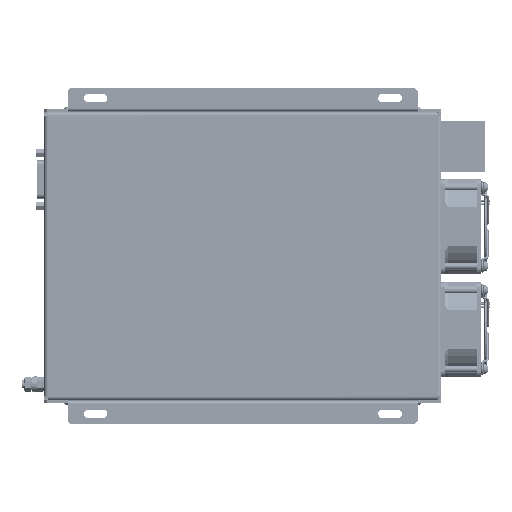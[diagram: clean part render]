
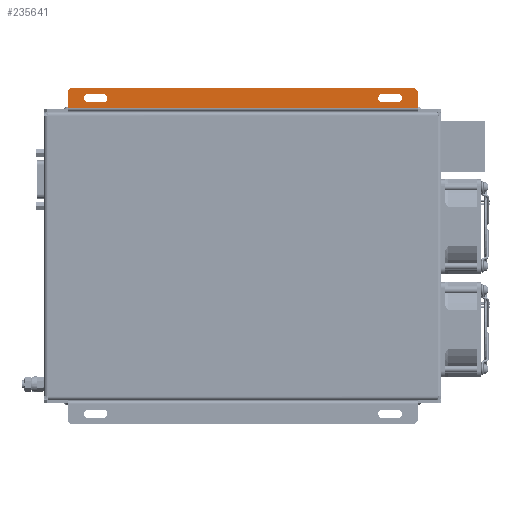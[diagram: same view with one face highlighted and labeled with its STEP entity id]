
A CAD part, front view. The second image highlights one B-rep face of the part: STEP entity #235641.
In plain terms, the highlighted planar face has unit normal (0, -1, 0).
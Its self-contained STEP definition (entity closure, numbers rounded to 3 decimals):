
#136 = FACE_BOUND ( 'NONE', #331944, .T. ) ;
#3382 = DIRECTION ( 'NONE',  ( 0., 0., -1. ) ) ;
#6265 = EDGE_CURVE ( 'NONE', #134584, #356221, #390096, .T. ) ;
#7140 = ORIENTED_EDGE ( 'NONE', *, *, #333436, .T. ) ;
#18641 = CIRCLE ( 'NONE', #370531, 2.5 ) ;
#24657 = CARTESIAN_POINT ( 'NONE',  ( -102.25, -68., -98. ) ) ;
#26019 = DIRECTION ( 'NONE',  ( 0., -1., 0. ) ) ;
#28642 = CARTESIAN_POINT ( 'NONE',  ( -102.25, -68., 98. ) ) ;
#29612 = CARTESIAN_POINT ( 'NONE',  ( -104.25, -68., -110.5 ) ) ;
#30663 = CIRCLE ( 'NONE', #60966, 2.5 ) ;
#32367 = DIRECTION ( 'NONE',  ( -0.707, 0., -0.707 ) ) ;
#34656 = LINE ( 'NONE', #295556, #202285 ) ;
#40821 = VERTEX_POINT ( 'NONE', #306721 ) ;
#41406 = LINE ( 'NONE', #441294, #321897 ) ;
#42342 = VERTEX_POINT ( 'NONE', #113902 ) ;
#58670 = DIRECTION ( 'NONE',  ( -1., 0., 0. ) ) ;
#59942 = DIRECTION ( 'NONE',  ( 1., 0., 0. ) ) ;
#60966 = AXIS2_PLACEMENT_3D ( 'NONE', #304268, #127960, #59942 ) ;
#74276 = AXIS2_PLACEMENT_3D ( 'NONE', #290603, #257470, #118834 ) ;
#74302 = VERTEX_POINT ( 'NONE', #366268 ) ;
#75438 = EDGE_CURVE ( 'NONE', #40821, #284776, #243571, .T. ) ;
#91843 = FACE_BOUND ( 'NONE', #208604, .T. ) ;
#91865 = CARTESIAN_POINT ( 'NONE',  ( -92.75, -68., -110.5 ) ) ;
#103925 = EDGE_LOOP ( 'NONE', ( #213302, #306983, #330306, #254367, #7140, #191074 ) ) ;
#108620 = ORIENTED_EDGE ( 'NONE', *, *, #6265, .F. ) ;
#113902 = CARTESIAN_POINT ( 'NONE',  ( -97.25, -68., 88. ) ) ;
#115231 = CARTESIAN_POINT ( 'NONE',  ( -93.55, -68., -110.5 ) ) ;
#118834 = DIRECTION ( 'NONE',  ( 1., 0., 0. ) ) ;
#119923 = AXIS2_PLACEMENT_3D ( 'NONE', #270400, #26019, #268910 ) ;
#127935 = ORIENTED_EDGE ( 'NONE', *, *, #433125, .F. ) ;
#127960 = DIRECTION ( 'NONE',  ( 0., -1., 0. ) ) ;
#134584 = VERTEX_POINT ( 'NONE', #193166 ) ;
#135417 = CARTESIAN_POINT ( 'NONE',  ( -104.25, -68., -110.5 ) ) ;
#140821 = CARTESIAN_POINT ( 'NONE',  ( -92.75, -68., -110.5 ) ) ;
#142203 = CARTESIAN_POINT ( 'NONE',  ( -106.25, -68., -110.5 ) ) ;
#147725 = EDGE_CURVE ( 'NONE', #301023, #74302, #18641, .T. ) ;
#164148 = CARTESIAN_POINT ( 'NONE',  ( -99.75, -68., -88. ) ) ;
#172512 = VECTOR ( 'NONE', #434403, 1000. ) ;
#174043 = ORIENTED_EDGE ( 'NONE', *, *, #392438, .F. ) ;
#177019 = ORIENTED_EDGE ( 'NONE', *, *, #372039, .F. ) ;
#180951 = CARTESIAN_POINT ( 'NONE',  ( -97.25, -68., -98. ) ) ;
#191074 = ORIENTED_EDGE ( 'NONE', *, *, #419631, .T. ) ;
#193166 = CARTESIAN_POINT ( 'NONE',  ( -102.25, -68., -98. ) ) ;
#197389 = DIRECTION ( 'NONE',  ( 0., -1., 0. ) ) ;
#202285 = VECTOR ( 'NONE', #360615, 1000. ) ;
#208604 = EDGE_LOOP ( 'NONE', ( #177019, #301359, #174043, #268903 ) ) ;
#213302 = ORIENTED_EDGE ( 'NONE', *, *, #320799, .T. ) ;
#216508 = LINE ( 'NONE', #241479, #297383 ) ;
#227098 = EDGE_CURVE ( 'NONE', #233327, #361591, #342947, .T. ) ;
#233327 = VERTEX_POINT ( 'NONE', #363985 ) ;
#234230 = DIRECTION ( 'NONE',  ( 0., 0., -1. ) ) ;
#235641 = ADVANCED_FACE ( 'NONE', ( #91843, #136, #339980 ), #347422, .F. ) ;
#236634 = VECTOR ( 'NONE', #58670, 1000. ) ;
#237217 = CARTESIAN_POINT ( 'NONE',  ( -93.55, -68., -110.5 ) ) ;
#241479 = CARTESIAN_POINT ( 'NONE',  ( -97.25, -68., -98. ) ) ;
#242727 = LINE ( 'NONE', #24657, #415461 ) ;
#243571 = LINE ( 'NONE', #237217, #416292 ) ;
#253099 = EDGE_CURVE ( 'NONE', #74302, #134584, #242727, .T. ) ;
#254289 = EDGE_CURVE ( 'NONE', #403640, #42342, #30663, .T. ) ;
#254367 = ORIENTED_EDGE ( 'NONE', *, *, #75438, .F. ) ;
#257470 = DIRECTION ( 'NONE',  ( 0., -1., 0. ) ) ;
#259053 = CARTESIAN_POINT ( 'NONE',  ( -97.25, -68., -88. ) ) ;
#268903 = ORIENTED_EDGE ( 'NONE', *, *, #254289, .F. ) ;
#268910 = DIRECTION ( 'NONE',  ( 1., 0., 0. ) ) ;
#269292 = EDGE_CURVE ( 'NONE', #361591, #284776, #443111, .T. ) ;
#270400 = CARTESIAN_POINT ( 'NONE',  ( -99.75, -68., -98. ) ) ;
#276524 = DIRECTION ( 'NONE',  ( -1., 0., 0. ) ) ;
#284776 = VERTEX_POINT ( 'NONE', #115231 ) ;
#290603 = CARTESIAN_POINT ( 'NONE',  ( -99.75, -68., 98. ) ) ;
#295556 = CARTESIAN_POINT ( 'NONE',  ( -102.25, -68., 98. ) ) ;
#297383 = VECTOR ( 'NONE', #372868, 1000. ) ;
#300651 = DIRECTION ( 'NONE',  ( 0., 0., -1. ) ) ;
#301023 = VERTEX_POINT ( 'NONE', #259053 ) ;
#301359 = ORIENTED_EDGE ( 'NONE', *, *, #318874, .F. ) ;
#304268 = CARTESIAN_POINT ( 'NONE',  ( -99.75, -68., 88. ) ) ;
#306721 = CARTESIAN_POINT ( 'NONE',  ( -93.55, -68., 110.5 ) ) ;
#306983 = ORIENTED_EDGE ( 'NONE', *, *, #227098, .T. ) ;
#309314 = VECTOR ( 'NONE', #334145, 1000. ) ;
#312768 = VECTOR ( 'NONE', #3382, 1000. ) ;
#313377 = CARTESIAN_POINT ( 'NONE',  ( -106.25, -68., 108.5 ) ) ;
#317265 = VERTEX_POINT ( 'NONE', #313377 ) ;
#318874 = EDGE_CURVE ( 'NONE', #373445, #415612, #428402, .T. ) ;
#320799 = EDGE_CURVE ( 'NONE', #317265, #233327, #382923, .T. ) ;
#321897 = VECTOR ( 'NONE', #32367, 1000. ) ;
#330306 = ORIENTED_EDGE ( 'NONE', *, *, #269292, .T. ) ;
#331944 = EDGE_LOOP ( 'NONE', ( #127935, #108620, #379925, #435377 ) ) ;
#333436 = EDGE_CURVE ( 'NONE', #40821, #398520, #447017, .T. ) ;
#334145 = DIRECTION ( 'NONE',  ( 0., 0., 1. ) ) ;
#339980 = FACE_OUTER_BOUND ( 'NONE', #103925, .T. ) ;
#342947 = LINE ( 'NONE', #29612, #429072 ) ;
#347422 = PLANE ( 'NONE',  #428572 ) ;
#356221 = VERTEX_POINT ( 'NONE', #180951 ) ;
#360615 = DIRECTION ( 'NONE',  ( 0., 0., -1. ) ) ;
#361591 = VERTEX_POINT ( 'NONE', #135417 ) ;
#363985 = CARTESIAN_POINT ( 'NONE',  ( -106.25, -68., -108.5 ) ) ;
#366268 = CARTESIAN_POINT ( 'NONE',  ( -102.25, -68., -88. ) ) ;
#370531 = AXIS2_PLACEMENT_3D ( 'NONE', #164148, #197389, #438700 ) ;
#372039 = EDGE_CURVE ( 'NONE', #415612, #403640, #34656, .T. ) ;
#372868 = DIRECTION ( 'NONE',  ( 0., 0., 1. ) ) ;
#373445 = VERTEX_POINT ( 'NONE', #373797 ) ;
#373797 = CARTESIAN_POINT ( 'NONE',  ( -97.25, -68., 98. ) ) ;
#376155 = DIRECTION ( 'NONE',  ( 0., 1., 0. ) ) ;
#379925 = ORIENTED_EDGE ( 'NONE', *, *, #253099, .F. ) ;
#380945 = DIRECTION ( 'NONE',  ( 0.707, 0., -0.707 ) ) ;
#382923 = LINE ( 'NONE', #142203, #312768 ) ;
#390096 = CIRCLE ( 'NONE', #119923, 2.5 ) ;
#392438 = EDGE_CURVE ( 'NONE', #42342, #373445, #444533, .T. ) ;
#398520 = VERTEX_POINT ( 'NONE', #438927 ) ;
#400510 = CARTESIAN_POINT ( 'NONE',  ( -97.25, -68., 98. ) ) ;
#403640 = VERTEX_POINT ( 'NONE', #426850 ) ;
#415461 = VECTOR ( 'NONE', #300651, 1000. ) ;
#415612 = VERTEX_POINT ( 'NONE', #28642 ) ;
#416292 = VECTOR ( 'NONE', #234230, 1000. ) ;
#419631 = EDGE_CURVE ( 'NONE', #398520, #317265, #41406, .T. ) ;
#426850 = CARTESIAN_POINT ( 'NONE',  ( -102.25, -68., 88. ) ) ;
#428402 = CIRCLE ( 'NONE', #74276, 2.5 ) ;
#428572 = AXIS2_PLACEMENT_3D ( 'NONE', #140821, #376155, #276524 ) ;
#429072 = VECTOR ( 'NONE', #380945, 1000. ) ;
#433125 = EDGE_CURVE ( 'NONE', #356221, #301023, #216508, .T. ) ;
#434403 = DIRECTION ( 'NONE',  ( 1., 0., 0. ) ) ;
#435377 = ORIENTED_EDGE ( 'NONE', *, *, #147725, .F. ) ;
#438700 = DIRECTION ( 'NONE',  ( 1., 0., 0. ) ) ;
#438927 = CARTESIAN_POINT ( 'NONE',  ( -104.25, -68., 110.5 ) ) ;
#441294 = CARTESIAN_POINT ( 'NONE',  ( -106.25, -68., 108.5 ) ) ;
#443111 = LINE ( 'NONE', #91865, #172512 ) ;
#443348 = CARTESIAN_POINT ( 'NONE',  ( -92.75, -68., 110.5 ) ) ;
#444533 = LINE ( 'NONE', #400510, #309314 ) ;
#447017 = LINE ( 'NONE', #443348, #236634 ) ;
